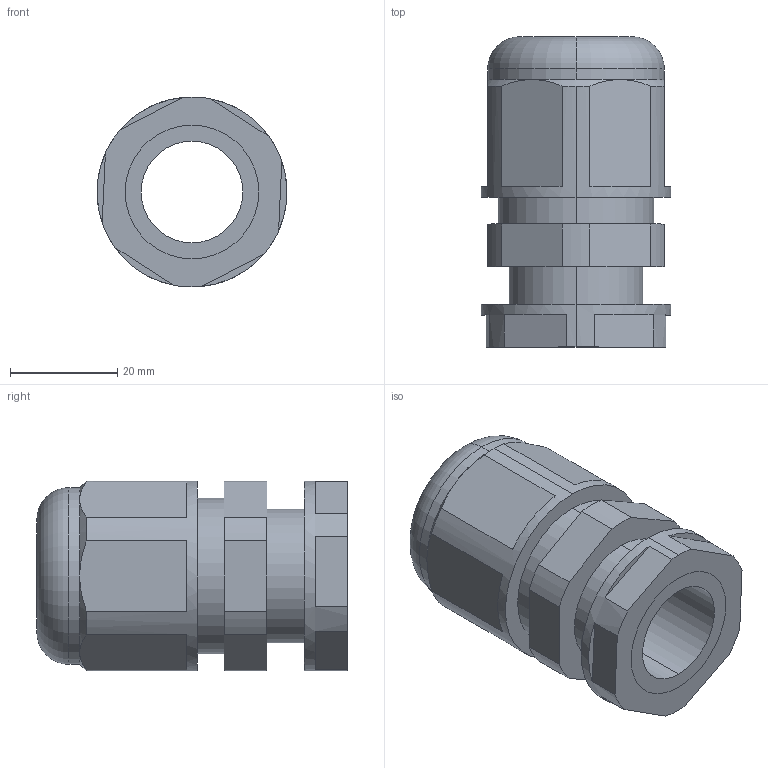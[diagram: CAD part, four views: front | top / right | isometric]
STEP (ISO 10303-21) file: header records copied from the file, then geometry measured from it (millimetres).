
FILE_DESCRIPTION (( 'STEP AP214' ), '1' );
FILE_NAME ('Ñàëüíèê MG25-(D ïðîâîäíèêà 13-18 ìì)-IP68.STEP', '2023-02-20T06:33:53', ( '' ), ( '' ), 'SwSTEP 2.0', 'SolidWorks 2018', '' );
FILE_SCHEMA (( 'AUTOMOTIVE_DESIGN' ));
Length unit declared in the file: millimetre
Products named in the file (3): Ñàëüíèê MG25-(D ïðîâîäíèêà 13-18 ìì)-IP68; Ñàëüíèê MG25-(D ïðîâîäíèêà 13-18 ìì)-IP68 ãàéêà; Ñàëüíèê MG25-(D ïðîâîäíèêà 13-18 ìì)-IP68 äåòàëü
Assembly tree (2 placements, depth 2):
  Ñàëüíèê MG25-(D ïðîâîäíèêà 13-18 ìì)-IP68
    Ñàëüíèê MG25-(D ïðîâîäíèêà 13-18 ìì)-IP68 äåòàëü
    Ñàëüíèê MG25-(D ïðîâîäíèêà 13-18 ìì)-IP68 ãàéêà
Bounding box: 35.5 x 58 x 35.5 mm (x, y, z)
Volume: 31736.6 mm3; surface area: 13337.3 mm2
Topology: 2 solids, 2 shells, 67 faces, 170 edges, 110 vertices
Faces by surface type: plane 37, cylinder 21, cone 7, torus 2
Entity records: 2194 total; most frequent: CARTESIAN_POINT 412, DIRECTION 378, ORIENTED_EDGE 340, EDGE_CURVE 170, AXIS2_PLACEMENT_3D 148, VERTEX_POINT 110, VECTOR 82, LINE 82
